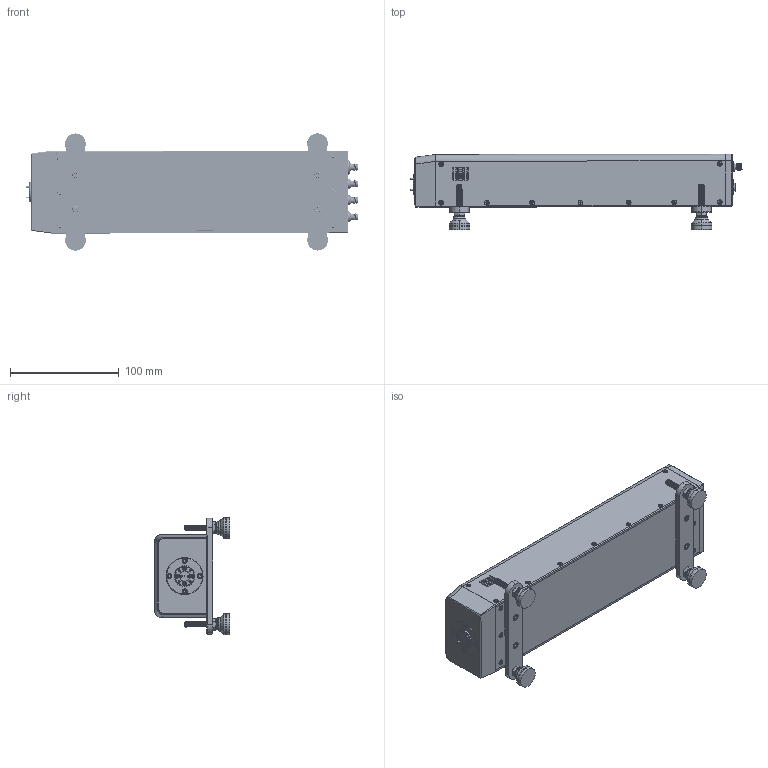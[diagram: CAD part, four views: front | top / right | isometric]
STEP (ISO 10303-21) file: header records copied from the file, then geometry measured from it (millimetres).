
FILE_DESCRIPTION (( 'STEP AP214' ), '1' );
FILE_NAME ('TO-SG-A, Defeatured.STEP', '2023-06-28T17:22:10', ( '' ), ( '' ), 'SwSTEP 2.0', 'SolidWorks 2021', '' );
FILE_SCHEMA (( 'AUTOMOTIVE_DESIGN' ));
Length unit declared in the file: inch
Products named in the file (1): TO-SG-A, Defeatured
Bounding box: 305.75 x 69.72 x 108.07 mm (x, y, z)
Volume: 1094417.6 mm3; surface area: 166928 mm2
Topology: 56 solids, 67 shells, 2399 faces, 5898 edges, 3710 vertices
Faces by surface type: cylinder 931, plane 888, cone 526, bspline 34, sphere 16, torus 4
Entity records: 122894 total; most frequent: CARTESIAN_POINT 45454, ORIENTED_EDGE 11524, DIRECTION 10936, EDGE_CURVE 5762, AXIS2_PLACEMENT_3D 4228, VERTEX_POINT 3686, EDGE_LOOP 2674, VECTOR 2480
